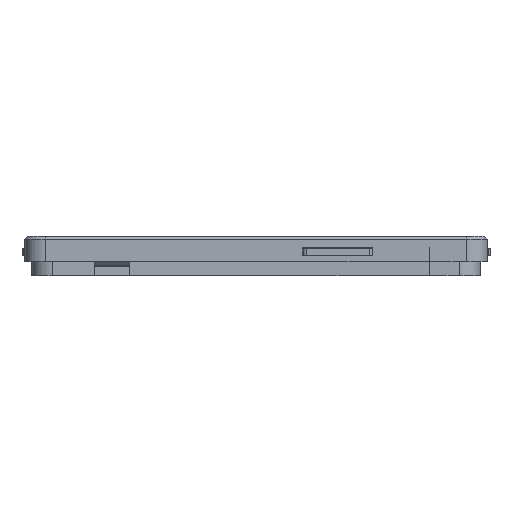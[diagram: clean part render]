
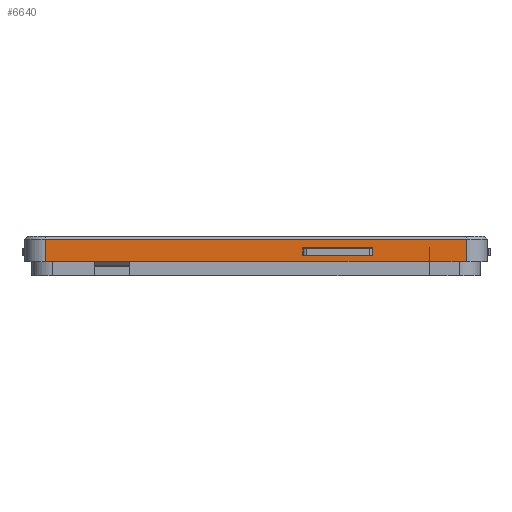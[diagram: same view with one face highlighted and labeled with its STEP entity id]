
A CAD part, front view. The second image highlights one B-rep face of the part: STEP entity #6640.
In plain terms, the highlighted planar face has unit normal (0, -1, 0).
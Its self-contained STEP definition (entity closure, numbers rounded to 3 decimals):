
#35=LINE('',#9438,#575);
#37=LINE('',#9444,#577);
#297=LINE('',#10132,#837);
#301=LINE('',#10143,#841);
#302=LINE('',#10145,#842);
#311=LINE('',#10168,#851);
#336=LINE('',#10226,#876);
#346=LINE('',#10246,#886);
#347=LINE('',#10248,#887);
#360=LINE('',#10309,#900);
#386=LINE('',#10368,#926);
#530=LINE('',#10767,#1070);
#539=LINE('',#10796,#1079);
#541=LINE('',#10799,#1081);
#575=VECTOR('',#7562,49.456);
#577=VECTOR('',#7568,0.266);
#837=VECTOR('',#8190,5.7);
#841=VECTOR('',#8204,5.7);
#842=VECTOR('',#8207,0.278);
#851=VECTOR('',#8224,273.5);
#876=VECTOR('',#8285,10.);
#886=VECTOR('',#8297,0.5);
#887=VECTOR('',#8300,50.);
#900=VECTOR('',#8367,26.);
#926=VECTOR('',#8423,10.);
#1070=VECTOR('',#8829,300.);
#1079=VECTOR('',#8862,16.);
#1081=VECTOR('',#8866,16.);
#1338=PLANE('',#7218);
#1550=FACE_BOUND('',#2394,.T.);
#1937=FACE_OUTER_BOUND('',#2393,.T.);
#2393=EDGE_LOOP('',(#5639,#5640,#5641,#5642,#5643,#5644,#5645,#5646));
#2394=EDGE_LOOP('',(#5647,#5648,#5649,#5650,#5651,#5652));
#2948=VERTEX_POINT('',#9410);
#2953=VERTEX_POINT('',#9428);
#2957=VERTEX_POINT('',#9442);
#3202=VERTEX_POINT('',#10126);
#3204=VERTEX_POINT('',#10130);
#3206=VERTEX_POINT('',#10141);
#3208=VERTEX_POINT('',#10148);
#3216=VERTEX_POINT('',#10166);
#3231=VERTEX_POINT('',#10224);
#3240=VERTEX_POINT('',#10244);
#3259=VERTEX_POINT('',#10305);
#3261=VERTEX_POINT('',#10308);
#3400=VERTEX_POINT('',#10757);
#3402=VERTEX_POINT('',#10763);
#3559=EDGE_CURVE('',#2953,#2948,#35,.T.);
#3562=EDGE_CURVE('',#2948,#2957,#37,.T.);
#3896=EDGE_CURVE('',#3202,#3204,#297,.T.);
#3902=EDGE_CURVE('',#2957,#3206,#301,.T.);
#3903=EDGE_CURVE('',#3204,#2953,#302,.T.);
#3915=EDGE_CURVE('',#3208,#3216,#311,.T.);
#3943=EDGE_CURVE('',#3216,#3231,#336,.T.);
#3953=EDGE_CURVE('',#3240,#3231,#346,.T.);
#3954=EDGE_CURVE('',#3202,#3206,#347,.T.);
#3981=EDGE_CURVE('',#3261,#3259,#360,.T.);
#4011=EDGE_CURVE('',#3261,#3240,#386,.T.);
#4204=EDGE_CURVE('',#3400,#3402,#530,.T.);
#4219=EDGE_CURVE('',#3402,#3259,#539,.T.);
#4221=EDGE_CURVE('',#3208,#3400,#541,.T.);
#5639=ORIENTED_EDGE('',*,*,#4221,.F.);
#5640=ORIENTED_EDGE('',*,*,#3915,.T.);
#5641=ORIENTED_EDGE('',*,*,#3943,.T.);
#5642=ORIENTED_EDGE('',*,*,#3953,.F.);
#5643=ORIENTED_EDGE('',*,*,#4011,.F.);
#5644=ORIENTED_EDGE('',*,*,#3981,.T.);
#5645=ORIENTED_EDGE('',*,*,#4219,.F.);
#5646=ORIENTED_EDGE('',*,*,#4204,.F.);
#5647=ORIENTED_EDGE('',*,*,#3954,.F.);
#5648=ORIENTED_EDGE('',*,*,#3896,.T.);
#5649=ORIENTED_EDGE('',*,*,#3903,.T.);
#5650=ORIENTED_EDGE('',*,*,#3559,.T.);
#5651=ORIENTED_EDGE('',*,*,#3562,.T.);
#5652=ORIENTED_EDGE('',*,*,#3902,.T.);
#6640=ADVANCED_FACE('',(#1937,#1550),#1338,.T.);
#7218=AXIS2_PLACEMENT_3D('',#10798,#8864,#8865);
#7562=DIRECTION('',(-1.,0.,0.));
#7568=DIRECTION('',(-1.,0.,0.));
#8190=DIRECTION('',(0.,0.,-1.));
#8204=DIRECTION('',(0.,0.,1.));
#8207=DIRECTION('',(-1.,0.,0.));
#8224=DIRECTION('',(1.,0.,0.));
#8285=DIRECTION('',(0.,0.,1.));
#8297=DIRECTION('',(-1.,0.,0.));
#8300=DIRECTION('',(-1.,0.,0.));
#8367=DIRECTION('',(1.,0.,0.));
#8423=DIRECTION('',(0.,0.,1.));
#8829=DIRECTION('',(1.,0.,0.));
#8862=DIRECTION('',(0.,0.,-1.));
#8864=DIRECTION('center_axis',(0.,-1.,0.));
#8865=DIRECTION('ref_axis',(1.,0.,0.));
#8866=DIRECTION('',(0.,0.,1.));
#9410=CARTESIAN_POINT('',(33.766,-165.,-5.7));
#9428=CARTESIAN_POINT('',(83.222,-165.,-5.7));
#9438=CARTESIAN_POINT('',(18.875,-165.,-5.7));
#9442=CARTESIAN_POINT('',(33.5,-165.,-5.7));
#9444=CARTESIAN_POINT('',(18.875,-165.,-5.7));
#10126=CARTESIAN_POINT('',(83.5,-165.,0.));
#10130=CARTESIAN_POINT('',(83.5,-165.,-5.7));
#10132=CARTESIAN_POINT('',(83.5,-165.,-2.5));
#10141=CARTESIAN_POINT('',(33.5,-165.,0.));
#10143=CARTESIAN_POINT('',(33.5,-165.,-2.5));
#10145=CARTESIAN_POINT('',(18.875,-165.,-5.7));
#10148=CARTESIAN_POINT('',(-150.,-165.,-10.));
#10166=CARTESIAN_POINT('',(123.5,-165.,-10.));
#10168=CARTESIAN_POINT('',(-165.,-165.,-10.));
#10224=CARTESIAN_POINT('',(123.5,-165.,0.));
#10226=CARTESIAN_POINT('',(123.5,-165.,-20.));
#10244=CARTESIAN_POINT('',(124.,-165.,0.));
#10246=CARTESIAN_POINT('',(165.,-165.,0.));
#10248=CARTESIAN_POINT('',(165.,-165.,0.));
#10305=CARTESIAN_POINT('',(150.,-165.,-10.));
#10308=CARTESIAN_POINT('',(124.,-165.,-10.));
#10309=CARTESIAN_POINT('',(142.,-165.,-10.));
#10368=CARTESIAN_POINT('',(124.,-165.,0.));
#10757=CARTESIAN_POINT('',(-150.,-165.,6.));
#10763=CARTESIAN_POINT('',(150.,-165.,6.));
#10767=CARTESIAN_POINT('',(-82.5,-165.,6.));
#10796=CARTESIAN_POINT('',(150.,-165.,0.));
#10798=CARTESIAN_POINT('Origin',(-165.,-165.,0.));
#10799=CARTESIAN_POINT('',(-150.,-165.,0.));
